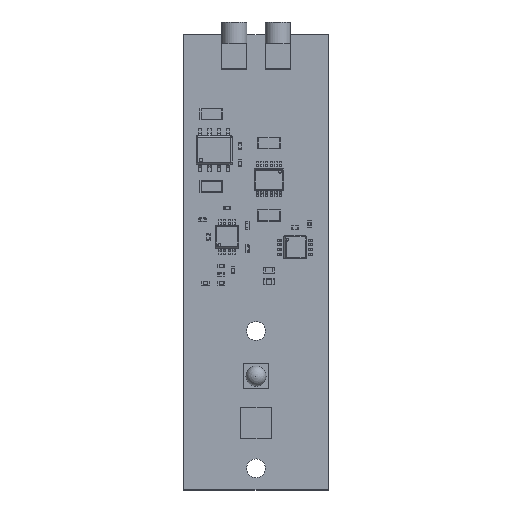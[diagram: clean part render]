
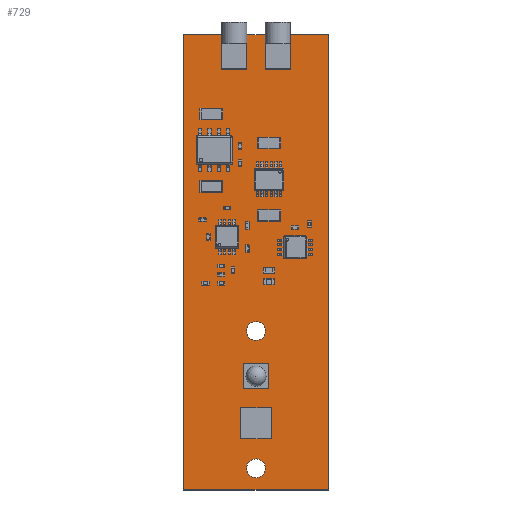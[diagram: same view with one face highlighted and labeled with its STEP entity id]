
A CAD part, top view. The second image highlights one B-rep face of the part: STEP entity #729.
In plain terms, the highlighted planar face has unit normal (0, 0, 1).
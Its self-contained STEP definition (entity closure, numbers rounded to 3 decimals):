
#168 = VERTEX_POINT('',#169);
#169 = CARTESIAN_POINT('',(-10.,-3.,1.456));
#175 = EDGE_CURVE('',#168,#176,#178,.T.);
#176 = VERTEX_POINT('',#177);
#177 = CARTESIAN_POINT('',(10.,-3.,1.456));
#178 = LINE('',#179,#180);
#179 = CARTESIAN_POINT('',(-10.,-3.,1.456));
#180 = VECTOR('',#181,1.);
#181 = DIRECTION('',(1.,0.,0.));
#206 = EDGE_CURVE('',#176,#207,#209,.T.);
#207 = VERTEX_POINT('',#208);
#208 = CARTESIAN_POINT('',(10.,60.,1.456));
#209 = LINE('',#210,#211);
#210 = CARTESIAN_POINT('',(10.,-3.,1.456));
#211 = VECTOR('',#212,1.);
#212 = DIRECTION('',(0.,1.,0.));
#237 = EDGE_CURVE('',#207,#238,#240,.T.);
#238 = VERTEX_POINT('',#239);
#239 = CARTESIAN_POINT('',(-10.,60.,1.456));
#240 = LINE('',#241,#242);
#241 = CARTESIAN_POINT('',(10.,60.,1.456));
#242 = VECTOR('',#243,1.);
#243 = DIRECTION('',(-1.,0.,0.));
#268 = EDGE_CURVE('',#238,#168,#269,.T.);
#269 = LINE('',#270,#271);
#270 = CARTESIAN_POINT('',(-10.,60.,1.456));
#271 = VECTOR('',#272,1.);
#272 = DIRECTION('',(0.,-1.,0.));
#292 = VERTEX_POINT('',#293);
#293 = CARTESIAN_POINT('',(-3.87,55.73,1.456));
#299 = EDGE_CURVE('',#292,#292,#300,.T.);
#300 = CIRCLE('',#301,0.4);
#301 = AXIS2_PLACEMENT_3D('',#302,#303,#304);
#302 = CARTESIAN_POINT('',(-4.27,55.73,1.456));
#303 = DIRECTION('',(0.,0.,1.));
#304 = DIRECTION('',(1.,0.,-0.));
#325 = VERTEX_POINT('',#326);
#326 = CARTESIAN_POINT('',(1.3,0.,1.456));
#332 = EDGE_CURVE('',#325,#325,#333,.T.);
#333 = CIRCLE('',#334,1.3);
#334 = AXIS2_PLACEMENT_3D('',#335,#336,#337);
#335 = CARTESIAN_POINT('',(0.,0.,1.456));
#336 = DIRECTION('',(0.,0.,1.));
#337 = DIRECTION('',(1.,0.,-0.));
#358 = VERTEX_POINT('',#359);
#359 = CARTESIAN_POINT('',(-1.33,55.73,1.456));
#365 = EDGE_CURVE('',#358,#358,#366,.T.);
#366 = CIRCLE('',#367,0.4);
#367 = AXIS2_PLACEMENT_3D('',#368,#369,#370);
#368 = CARTESIAN_POINT('',(-1.73,55.73,1.456));
#369 = DIRECTION('',(0.,0.,1.));
#370 = DIRECTION('',(1.,0.,-0.));
#391 = VERTEX_POINT('',#392);
#392 = CARTESIAN_POINT('',(-3.87,58.27,1.456));
#398 = EDGE_CURVE('',#391,#391,#399,.T.);
#399 = CIRCLE('',#400,0.4);
#400 = AXIS2_PLACEMENT_3D('',#401,#402,#403);
#401 = CARTESIAN_POINT('',(-4.27,58.27,1.456));
#402 = DIRECTION('',(0.,0.,1.));
#403 = DIRECTION('',(1.,0.,-0.));
#424 = VERTEX_POINT('',#425);
#425 = CARTESIAN_POINT('',(-2.6,57.,1.456));
#431 = EDGE_CURVE('',#424,#424,#432,.T.);
#432 = CIRCLE('',#433,0.4);
#433 = AXIS2_PLACEMENT_3D('',#434,#435,#436);
#434 = CARTESIAN_POINT('',(-3.,57.,1.456));
#435 = DIRECTION('',(0.,0.,1.));
#436 = DIRECTION('',(1.,0.,-0.));
#457 = VERTEX_POINT('',#458);
#458 = CARTESIAN_POINT('',(-1.33,58.27,1.456));
#464 = EDGE_CURVE('',#457,#457,#465,.T.);
#465 = CIRCLE('',#466,0.4);
#466 = AXIS2_PLACEMENT_3D('',#467,#468,#469);
#467 = CARTESIAN_POINT('',(-1.73,58.27,1.456));
#468 = DIRECTION('',(0.,0.,1.));
#469 = DIRECTION('',(1.,0.,-0.));
#490 = VERTEX_POINT('',#491);
#491 = CARTESIAN_POINT('',(1.3,19.,1.456));
#497 = EDGE_CURVE('',#490,#490,#498,.T.);
#498 = CIRCLE('',#499,1.3);
#499 = AXIS2_PLACEMENT_3D('',#500,#501,#502);
#500 = CARTESIAN_POINT('',(0.,19.,1.456));
#501 = DIRECTION('',(0.,0.,1.));
#502 = DIRECTION('',(1.,0.,-0.));
#523 = VERTEX_POINT('',#524);
#524 = CARTESIAN_POINT('',(4.67,55.73,1.456));
#530 = EDGE_CURVE('',#523,#523,#531,.T.);
#531 = CIRCLE('',#532,0.4);
#532 = AXIS2_PLACEMENT_3D('',#533,#534,#535);
#533 = CARTESIAN_POINT('',(4.27,55.73,1.456));
#534 = DIRECTION('',(0.,0.,1.));
#535 = DIRECTION('',(1.,0.,-0.));
#556 = VERTEX_POINT('',#557);
#557 = CARTESIAN_POINT('',(2.13,55.73,1.456));
#563 = EDGE_CURVE('',#556,#556,#564,.T.);
#564 = CIRCLE('',#565,0.4);
#565 = AXIS2_PLACEMENT_3D('',#566,#567,#568);
#566 = CARTESIAN_POINT('',(1.73,55.73,1.456));
#567 = DIRECTION('',(0.,0.,1.));
#568 = DIRECTION('',(1.,0.,-0.));
#589 = VERTEX_POINT('',#590);
#590 = CARTESIAN_POINT('',(2.13,58.27,1.456));
#596 = EDGE_CURVE('',#589,#589,#597,.T.);
#597 = CIRCLE('',#598,0.4);
#598 = AXIS2_PLACEMENT_3D('',#599,#600,#601);
#599 = CARTESIAN_POINT('',(1.73,58.27,1.456));
#600 = DIRECTION('',(0.,0.,1.));
#601 = DIRECTION('',(1.,0.,-0.));
#622 = VERTEX_POINT('',#623);
#623 = CARTESIAN_POINT('',(3.4,57.,1.456));
#629 = EDGE_CURVE('',#622,#622,#630,.T.);
#630 = CIRCLE('',#631,0.4);
#631 = AXIS2_PLACEMENT_3D('',#632,#633,#634);
#632 = CARTESIAN_POINT('',(3.,57.,1.456));
#633 = DIRECTION('',(0.,0.,1.));
#634 = DIRECTION('',(1.,0.,-0.));
#655 = VERTEX_POINT('',#656);
#656 = CARTESIAN_POINT('',(4.67,58.27,1.456));
#662 = EDGE_CURVE('',#655,#655,#663,.T.);
#663 = CIRCLE('',#664,0.4);
#664 = AXIS2_PLACEMENT_3D('',#665,#666,#667);
#665 = CARTESIAN_POINT('',(4.27,58.27,1.456));
#666 = DIRECTION('',(0.,0.,1.));
#667 = DIRECTION('',(1.,0.,-0.));
#729 = ADVANCED_FACE('',(#730,#736,#739,#742,#745,#748,#751,#754,#757,
    #760,#763,#766,#769),#772,.T.);
#730 = FACE_BOUND('',#731,.T.);
#731 = EDGE_LOOP('',(#732,#733,#734,#735));
#732 = ORIENTED_EDGE('',*,*,#175,.T.);
#733 = ORIENTED_EDGE('',*,*,#206,.T.);
#734 = ORIENTED_EDGE('',*,*,#237,.T.);
#735 = ORIENTED_EDGE('',*,*,#268,.T.);
#736 = FACE_BOUND('',#737,.T.);
#737 = EDGE_LOOP('',(#738));
#738 = ORIENTED_EDGE('',*,*,#299,.F.);
#739 = FACE_BOUND('',#740,.T.);
#740 = EDGE_LOOP('',(#741));
#741 = ORIENTED_EDGE('',*,*,#332,.F.);
#742 = FACE_BOUND('',#743,.T.);
#743 = EDGE_LOOP('',(#744));
#744 = ORIENTED_EDGE('',*,*,#365,.F.);
#745 = FACE_BOUND('',#746,.T.);
#746 = EDGE_LOOP('',(#747));
#747 = ORIENTED_EDGE('',*,*,#398,.F.);
#748 = FACE_BOUND('',#749,.T.);
#749 = EDGE_LOOP('',(#750));
#750 = ORIENTED_EDGE('',*,*,#431,.F.);
#751 = FACE_BOUND('',#752,.T.);
#752 = EDGE_LOOP('',(#753));
#753 = ORIENTED_EDGE('',*,*,#464,.F.);
#754 = FACE_BOUND('',#755,.T.);
#755 = EDGE_LOOP('',(#756));
#756 = ORIENTED_EDGE('',*,*,#497,.F.);
#757 = FACE_BOUND('',#758,.T.);
#758 = EDGE_LOOP('',(#759));
#759 = ORIENTED_EDGE('',*,*,#530,.F.);
#760 = FACE_BOUND('',#761,.T.);
#761 = EDGE_LOOP('',(#762));
#762 = ORIENTED_EDGE('',*,*,#563,.F.);
#763 = FACE_BOUND('',#764,.T.);
#764 = EDGE_LOOP('',(#765));
#765 = ORIENTED_EDGE('',*,*,#596,.F.);
#766 = FACE_BOUND('',#767,.T.);
#767 = EDGE_LOOP('',(#768));
#768 = ORIENTED_EDGE('',*,*,#629,.F.);
#769 = FACE_BOUND('',#770,.T.);
#770 = EDGE_LOOP('',(#771));
#771 = ORIENTED_EDGE('',*,*,#662,.F.);
#772 = PLANE('',#773);
#773 = AXIS2_PLACEMENT_3D('',#774,#775,#776);
#774 = CARTESIAN_POINT('',(0.,28.5,1.456));
#775 = DIRECTION('',(0.,0.,1.));
#776 = DIRECTION('',(1.,0.,-0.));
